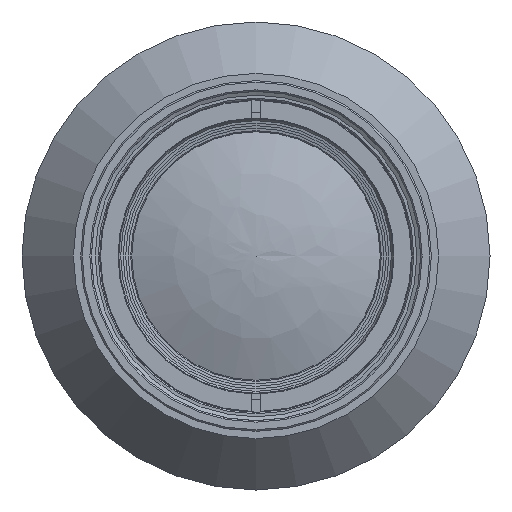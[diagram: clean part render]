
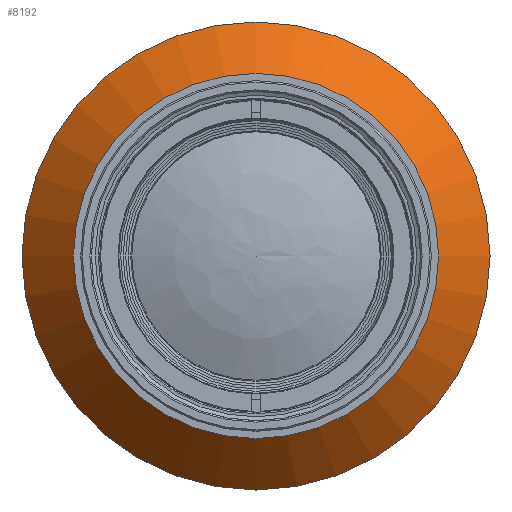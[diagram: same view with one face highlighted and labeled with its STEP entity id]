
A CAD part, left-side view. The second image highlights one B-rep face of the part: STEP entity #8192.
In plain terms, the highlighted conical face has half-angle 42 degrees and reference radius 30.7 mm.
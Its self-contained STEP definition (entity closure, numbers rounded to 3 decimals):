
#140=FACE_BOUND('',#13735,.T.);
#141=FACE_BOUND('',#13736,.T.);
#1084=CONICAL_SURFACE('',#45730,30.7,42.);
#8192=ADVANCED_FACE('',(#140,#141),#1084,.T.);
#13735=EDGE_LOOP('',(#27730));
#13736=EDGE_LOOP('',(#27731));
#15215=CIRCLE('',#45727,23.95);
#15216=CIRCLE('',#45729,30.7);
#27730=ORIENTED_EDGE('',*,*,#38356,.T.);
#27731=ORIENTED_EDGE('',*,*,#38357,.F.);
#31954=VERTEX_POINT('',#78079);
#31955=VERTEX_POINT('',#78082);
#38356=EDGE_CURVE('',#31954,#31954,#15215,.T.);
#38357=EDGE_CURVE('',#31955,#31955,#15216,.T.);
#45727=AXIS2_PLACEMENT_3D('',#78078,#55253,#55254);
#45729=AXIS2_PLACEMENT_3D('',#78081,#55257,#55258);
#45730=AXIS2_PLACEMENT_3D('',#78083,#55259,#55260);
#55253=DIRECTION('',(1.,0.,0.));
#55254=DIRECTION('',(0.,0.,1.));
#55257=DIRECTION('',(1.,0.,0.));
#55258=DIRECTION('',(0.,0.,1.));
#55259=DIRECTION('',(1.,0.,0.));
#55260=DIRECTION('',(0.,0.,1.));
#78078=CARTESIAN_POINT('',(7.705,0.,0.));
#78079=CARTESIAN_POINT('',(7.705,0.,23.95));
#78081=CARTESIAN_POINT('',(15.202,0.,0.));
#78082=CARTESIAN_POINT('',(15.202,0.,30.7));
#78083=CARTESIAN_POINT('',(15.202,0.,0.));
